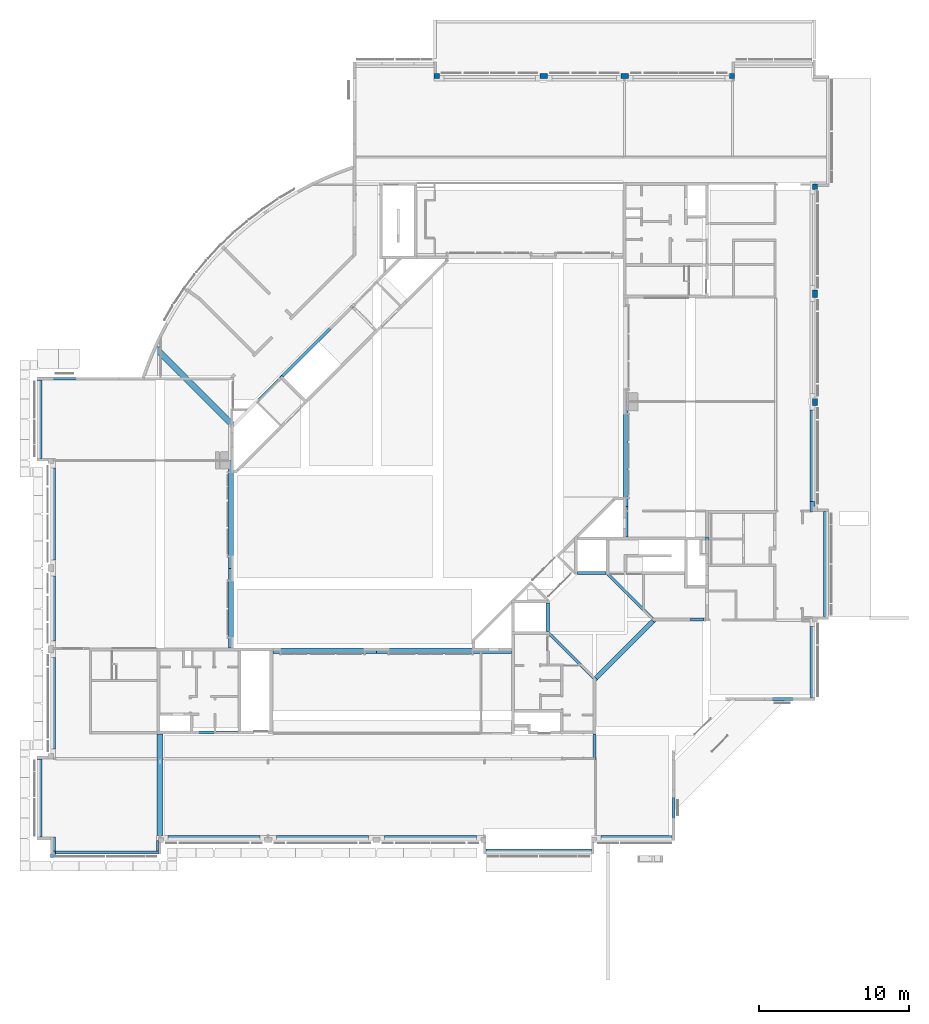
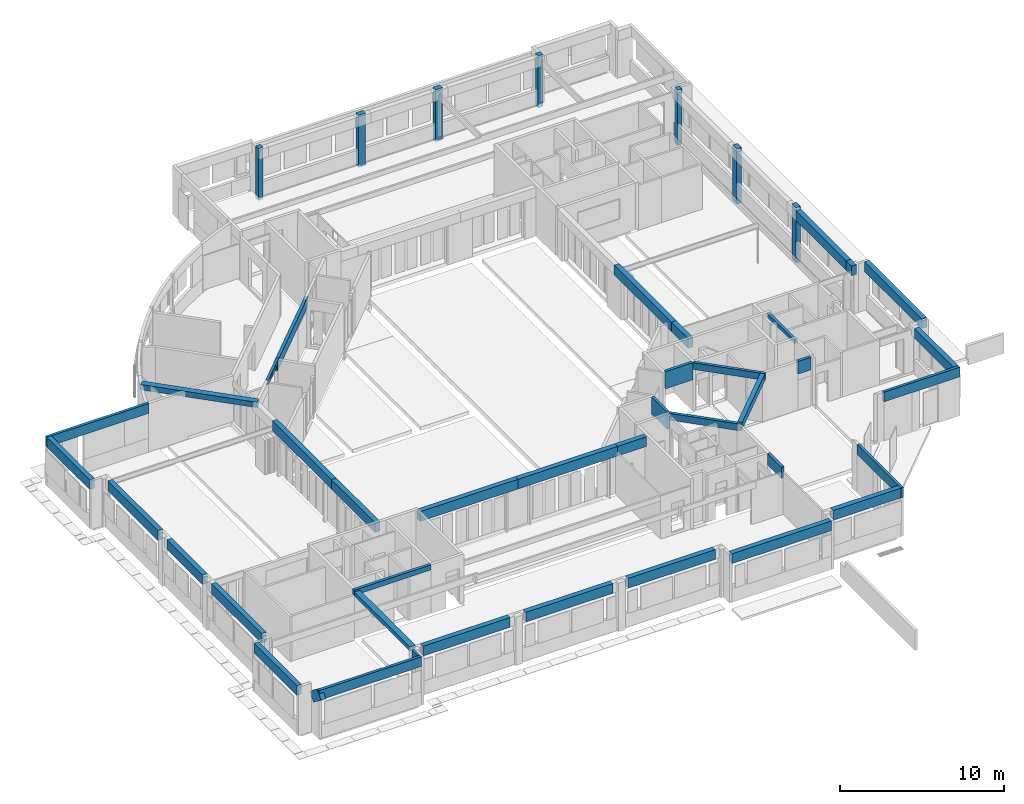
# One storey, part 2 of 30: 40 beams, 7 columns, 1 element without a shape of its own.
"""IFC4X3_ADD2 building model written with IfcOpenShell, lengths in millimetres."""

from ifc_helpers import new_model, si_unit, direction, frame, frame_2d, origin_with_axes, origin_2d_with_axis, place, context, subcontext, project, spatial, polyline, rectangle, outline, extrude, source, transform, mapped, material, type_object, type_shapes, element, aggregate, save


model = new_model("IFC4X3_ADD2")

# Units and contexts
model_context = context("Model", 3, precision=1e-05, world=origin_with_axes(), true_north=direction((0.0, 1.0)))
body_context = subcontext(model_context, "Body", "Model", "MODEL_VIEW")
ifc_project = project(units=[si_unit("LENGTHUNIT", "METRE", prefix="MILLI"), si_unit("AREAUNIT", "SQUARE_METRE"), si_unit("VOLUMEUNIT", "CUBIC_METRE"), si_unit("PLANEANGLEUNIT", "RADIAN"), si_unit("TIMEUNIT", "SECOND"), si_unit("MASSUNIT", "GRAM")], contexts=[model_context])

# Site, building, storey
site_placement = place(None, origin_with_axes())
site = spatial("IfcSite", under=ifc_project, at=site_placement, Name="Site", CompositionType="ELEMENT")
building_placement = place(site_placement, origin_with_axes())
building = spatial("IfcBuilding", under=site, at=building_placement, Name="IFC Building Story")
storey_placement = place(building_placement, origin_with_axes())
storey = spatial("IfcBuildingStorey", under=building, at=storey_placement, Name="000", Elevation=0.0)

# Columns
ifc_material_1 = material(Name="BB_Beton_Bestaand")
column_type_1 = type_object("IfcColumnType", Name="BB_XX_Kolom_ rechthoekig_ center-center_GTL_340 mm x 340 mm17", PredefinedType="NOTDEFINED")
shared_shape_1 = source(origin_with_axes(), body_context, "Body", "SweptSolid", [
    extrude(rectangle(XDim=340.0, YDim=340.0000000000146, at=origin_2d_with_axis()), frame((-25090.0, 50775.0, -460.0), z_axis=(0.0, 0.0, 1.0), x_axis=(1.0, 0.0, 0.0)), (0.0, 0.0, 1.0), 3860.0),
])
type_shapes(column_type_1, [shared_shape_1])
column_1_placement = place(storey_placement, origin_with_axes())
element("IfcColumn", 1, at=column_1_placement, inside=storey, type_object=column_type_1, material=ifc_material_1, Name="BB_XX_Kolom, rechthoekig, center-center_GTL:340 mm x 340 mm", ObjectType="340 mm x 340 mm", PredefinedType="COLUMN", context=body_context, shape_type="MappedRepresentation", body=[
    mapped(shared_shape_1, transform((0.0, 0.0, 0.0))),
])
column_type_2 = type_object("IfcColumnType", Name="BB_XX_Kolom_ rechthoekig_ center-center_GTL_490 mm x 340 mm13", PredefinedType="NOTDEFINED")
shared_shape_2 = source(origin_with_axes(), body_context, "Body", "SweptSolid", [
    extrude(rectangle(XDim=490.0, YDim=340.0, at=origin_2d_with_axis()), frame((0.0, 0.0, -460.0), z_axis=(0.0, 0.0, 1.0), x_axis=(1.0, 0.0, 0.0)), (0.0, 0.0, 1.0), 3860.0),
])
type_shapes(column_type_2, [shared_shape_2])
for number, where, z_axis, x_axis in (
    (2, (-17965.0, 50775.0, 0.0), (0.0, 0.0, 1.0), (1.0, 0.0, 0.0)),
    (3, (-12565.0, 50775.0, 0.0), (0.0, 0.0, 1.0), (1.0, 0.0, 0.0)),
):
    element("IfcColumn", number, at=place(storey_placement, frame(where, z_axis=z_axis, x_axis=x_axis)), inside=storey, type_object=column_type_2, material=ifc_material_1, Name="BB_XX_Kolom, rechthoekig, center-center_GTL:490 mm x 340 mm", ObjectType="490 mm x 340 mm", PredefinedType="COLUMN", context=body_context, shape_type="MappedRepresentation", body=[
        mapped(shared_shape_2, transform((0.0, 0.0, 0.0))),
    ])
column_type_3 = type_object("IfcColumnType", Name="BB_XX_Kolom_ rechthoekig_ center-center_GTL_340 mm x 340 mm19", PredefinedType="NOTDEFINED")
shared_shape_3 = source(origin_with_axes(), body_context, "Body", "SweptSolid", [
    extrude(rectangle(XDim=340.0, YDim=340.000000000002, at=origin_2d_with_axis()), frame((0.0, 0.0, -460.0), z_axis=(0.0, 0.0, 1.0), x_axis=(1.0, 0.0, 0.0)), (0.0, 0.0, 1.0), 3860.0),
])
type_shapes(column_type_3, [shared_shape_3])
column_2_placement = place(storey_placement, frame((-5440.0, 50775.0, 0.0), z_axis=(0.0, 0.0, 1.0), x_axis=(1.0, 0.0, 0.0)))
element("IfcColumn", 4, at=column_2_placement, inside=storey, type_object=column_type_3, material=ifc_material_1, Name="BB_XX_Kolom, rechthoekig, center-center_GTL:340 mm x 340 mm", ObjectType="340 mm x 340 mm", PredefinedType="COLUMN", context=body_context, shape_type="MappedRepresentation", body=[
    mapped(shared_shape_3, transform((0.0, 0.0, 0.0))),
])
column_type_4 = type_object("IfcColumnType", Name="BB_XX_Kolom_ rechthoekig_ center-center_GTL_340 mm x 340 mm21", PredefinedType="NOTDEFINED")
shared_shape_4 = source(origin_with_axes(), body_context, "Body", "SweptSolid", [
    extrude(rectangle(XDim=340.0, YDim=340.0000000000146, at=origin_2d_with_axis()), frame((75.0, 43405.0, -700.0), z_axis=(0.0, 0.0, 1.0), x_axis=(1.0, 0.0, 0.0)), (0.0, 0.0, 1.0), 4100.0),
])
type_shapes(column_type_4, [shared_shape_4])
column_3_placement = place(storey_placement, origin_with_axes())
element("IfcColumn", 5, at=column_3_placement, inside=storey, type_object=column_type_4, material=ifc_material_1, Name="BB_XX_Kolom, rechthoekig, center-center_GTL:340 mm x 340 mm", ObjectType="340 mm x 340 mm", PredefinedType="COLUMN", context=body_context, shape_type="MappedRepresentation", body=[
    mapped(shared_shape_4, transform((0.0, 0.0, 0.0))),
])
column_type_5 = type_object("IfcColumnType", Name="BB_XX_Kolom_ rechthoekig_ center-center_GTL_490 mm x 340 mm15", PredefinedType="NOTDEFINED")
shared_shape_5 = source(origin_with_axes(), body_context, "Body", "SweptSolid", [
    extrude(rectangle(XDim=490.0, YDim=340.0, at=origin_2d_with_axis()), frame((0.0, 0.0, -710.0), z_axis=(0.0, 0.0, 1.0), x_axis=(1.0, 0.0, 0.0)), (0.0, 0.0, 1.0), 4110.0),
])
type_shapes(column_type_5, [shared_shape_5])
for number, where, z_axis, x_axis in (
    (6, (75.0, 36280.0, 0.0), (0.0, 0.0, 1.0), (0.0, 1.0, 0.0)),
    (7, (75.0, 29080.0, 0.0), (0.0, 0.0, 1.0), (0.0, 1.0, 0.0)),
):
    element("IfcColumn", number, at=place(storey_placement, frame(where, z_axis=z_axis, x_axis=x_axis)), inside=storey, type_object=column_type_5, material=ifc_material_1, Name="BB_XX_Kolom, rechthoekig, center-center_GTL:490 mm x 340 mm", ObjectType="490 mm x 340 mm", PredefinedType="COLUMN", context=body_context, shape_type="MappedRepresentation", body=[
        mapped(shared_shape_5, transform((0.0, 0.0, 0.0))),
    ])

# Beams
beam_type_1 = type_object("IfcBeamType", Name="BB_XX_Betonbalk_ rechthoekig_ center-center_SFB_340 x 720 mm", PredefinedType="NOTDEFINED")
shared_shape_6 = source(origin_with_axes(), body_context, "Body", "SweptSolid", [
    extrude(rectangle(XDim=6110.00000000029, YDim=340.0, at=origin_2d_with_axis()), frame((1.450644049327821e-10, 0.0, -360.0), z_axis=(0.0, 0.0, 1.0), x_axis=(1.0, 0.0, 0.0)), (0.0, 0.0, 1.0), 720.0),
])
type_shapes(beam_type_1, [shared_shape_6])
for number, where, z_axis, x_axis in (
    (8, (-32700.0, 75.0, 3040.0), (0.0, 0.0, 1.0), (-1.0, 0.0, 0.0)),
    (9, (-25500.0, 75.0, 3040.0), (0.0, 0.0, 1.0), (-1.0, 0.0, 0.0)),
):
    element("IfcBeam", number, at=place(storey_placement, frame(where, z_axis=z_axis, x_axis=x_axis)), inside=storey, type_object=beam_type_1, material=ifc_material_1, Name="BB_XX_Betonbalk, rechthoekig, center-center_SFB:340 x 720 mm", ObjectType="340 x 720 mm", PredefinedType="BEAM", context=body_context, shape_type="MappedRepresentation", body=[
        mapped(shared_shape_6, transform((0.0, 0.0, 0.0))),
    ])
beam_type_2 = type_object("IfcBeamType", Name="BB_XX_Betonbalk_ rechthoekig_ center-center_SFB_330 x 720 mm", PredefinedType="NOTDEFINED")
shared_shape_7 = source(origin_with_axes(), body_context, "Body", "SweptSolid", [
    extrude(rectangle(XDim=5210.00000000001, YDim=330.0, at=origin_2d_with_axis()), frame((-5.002220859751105e-12, 0.0, -360.0), z_axis=(0.0, 0.0, 1.0), x_axis=(1.0, 0.0, 0.0)), (0.0, 0.0, 1.0), 720.0),
])
type_shapes(beam_type_2, [shared_shape_7])
beam_1_placement = place(storey_placement, frame((-51530.0, 2730.0, 3040.0), z_axis=(0.0, 0.0, 1.0), x_axis=(0.0, 1.0, 0.0)))
element("IfcBeam", 10, at=beam_1_placement, inside=storey, type_object=beam_type_2, material=ifc_material_1, Name="BB_XX_Betonbalk, rechthoekig, center-center_SFB:330 x 720 mm", ObjectType="330 x 720 mm", PredefinedType="BEAM", context=body_context, shape_type="MappedRepresentation", body=[
    mapped(shared_shape_7, transform((0.0, 0.0, 0.0))),
])
beam_type_3 = type_object("IfcBeamType", Name="BB_XX_Betonbalk_ rechthoekig_ center-center_SFB_190 x 720 mm", PredefinedType="NOTDEFINED")
shared_shape_8 = source(origin_with_axes(), body_context, "Body", "SweptSolid", [
    extrude(rectangle(XDim=7199.99999999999, YDim=190.0, at=origin_2d_with_axis()), frame((-5.002220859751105e-12, 0.0, -360.0), z_axis=(0.0, 0.0, 1.0), x_axis=(1.0, 0.0, 0.0)), (0.0, 0.0, 1.0), 720.0),
])
type_shapes(beam_type_3, [shared_shape_8])
beam_2_placement = place(storey_placement, frame((-47195.0, -900.0, 3040.0), z_axis=(0.0, 0.0, 1.0), x_axis=(-1.0, 0.0, 0.0)))
element("IfcBeam", 11, at=beam_2_placement, inside=storey, type_object=beam_type_3, material=ifc_material_1, Name="BB_XX_Betonbalk, rechthoekig, center-center_SFB:190 x 720 mm", ObjectType="190 x 720 mm", PredefinedType="BEAM", context=body_context, shape_type="MappedRepresentation", body=[
    mapped(shared_shape_8, transform((0.0, 0.0, 0.0))),
])
beam_type_4 = type_object("IfcBeamType", Name="BB_XX_Betonbalk_ rechthoekig_ center-center_SFB_150 x 720 mm", PredefinedType="NOTDEFINED")
shared_shape_9 = source(origin_with_axes(), body_context, "Body", "SweptSolid", [
    extrude(rectangle(XDim=709.999999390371, YDim=150.0, at=frame_2d((0.0, 0.0), x_axis=(0.0, 1.0))), frame((-43670.0, -449.9999996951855, 2680.0), z_axis=(0.0, 0.0, 1.0), x_axis=(1.0, 0.0, 0.0)), (0.0, 0.0, 1.0), 720.0),
])
type_shapes(beam_type_4, [shared_shape_9])
beam_3_placement = place(storey_placement, origin_with_axes())
element("IfcBeam", 12, at=beam_3_placement, inside=storey, type_object=beam_type_4, material=ifc_material_1, Name="BB_XX_Betonbalk, rechthoekig, center-center_SFB:150 x 720 mm", ObjectType="150 x 720 mm", PredefinedType="BEAM", context=body_context, shape_type="MappedRepresentation", body=[
    mapped(shared_shape_9, transform((0.0, 0.0, 0.0))),
])
beam_type_5 = type_object("IfcBeamType", Name="BB_XX_Betonbalk_ rechthoekig_ center-center_SFB_330 x 720 mm1", PredefinedType="NOTDEFINED")
shared_shape_10 = source(origin_with_axes(), body_context, "Body", "SweptSolid", [
    extrude(rectangle(XDim=5209.86980580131, YDim=330.0, at=origin_2d_with_axis()), frame((-5.002220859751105e-12, 0.0, -360.0), z_axis=(0.0, 0.0, 1.0), x_axis=(1.0, 0.0, 0.0)), (0.0, 0.0, 1.0), 720.0),
])
type_shapes(beam_type_5, [shared_shape_10])
beam_4_placement = place(storey_placement, frame((-51530.0, 27929.9349029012, 3040.0), z_axis=(0.0, 0.0, 1.0), x_axis=(0.0, 1.0, 0.0)))
element("IfcBeam", 13, at=beam_4_placement, inside=storey, type_object=beam_type_5, material=ifc_material_1, Name="BB_XX_Betonbalk, rechthoekig, center-center_SFB:330 x 720 mm", ObjectType="330 x 720 mm", PredefinedType="BEAM", context=body_context, shape_type="MappedRepresentation", body=[
    mapped(shared_shape_10, transform((0.0, 0.0, 0.0))),
])
beam_type_6 = type_object("IfcBeamType", Name="BB_XX_Betonbalk_ rechthoekig_ center-center_SFB_190 x 720 mm1", PredefinedType="NOTDEFINED")
shared_shape_11 = source(origin_with_axes(), body_context, "Body", "SweptSolid", [
    extrude(rectangle(XDim=7184.549296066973, YDim=190.0, at=origin_2d_with_axis()), frame((-48102.72535196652, 30629.99999999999, 2680.0), z_axis=(0.0, 0.0, 1.0), x_axis=(1.0, 0.0, 0.0)), (0.0, 0.0, 1.0), 720.0),
])
type_shapes(beam_type_6, [shared_shape_11])
beam_5_placement = place(storey_placement, origin_with_axes())
element("IfcBeam", 14, at=beam_5_placement, inside=storey, type_object=beam_type_6, material=ifc_material_1, Name="BB_XX_Betonbalk, rechthoekig, center-center_SFB:190 x 720 mm", ObjectType="190 x 720 mm", PredefinedType="BEAM", context=body_context, shape_type="MappedRepresentation", body=[
    mapped(shared_shape_11, transform((0.0, 0.0, 0.0))),
])
beam_type_7 = type_object("IfcBeamType", Name="BB_XX_Betonbalk_ rechthoekig_ center-center_SFB_340 x 720 mm9", PredefinedType="NOTDEFINED")
shared_shape_12 = source(origin_with_axes(), body_context, "Body", "SweptSolid", [
    extrude(rectangle(XDim=6110.00000000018, YDim=340.0, at=origin_2d_with_axis()), frame((-5.002220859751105e-12, 0.0, -360.0), z_axis=(0.0, 0.0, 1.0), x_axis=(1.0, 0.0, 0.0)), (0.0, 0.0, 1.0), 720.0),
])
type_shapes(beam_type_7, [shared_shape_12])
beam_6_placement = place(storey_placement, frame((-75.0, 25500.0, 3040.0), z_axis=(0.0, 0.0, 1.0), x_axis=(0.0, -1.0, 0.0)))
element("IfcBeam", 15, at=beam_6_placement, inside=storey, type_object=beam_type_7, material=ifc_material_1, Name="BB_XX_Betonbalk, rechthoekig, center-center_SFB:340 x 720 mm", ObjectType="340 x 720 mm", PredefinedType="BEAM", context=body_context, shape_type="MappedRepresentation", body=[
    mapped(shared_shape_12, transform((0.0, 0.0, 0.0))),
])
beam_type_8 = type_object("IfcBeamType", Name="BB_XX_Betonbalk_ rechthoekig_ center-center_SFB_340 x 720 mm17", PredefinedType="NOTDEFINED")
shared_shape_13 = source(origin_with_axes(), body_context, "Body", "SweptSolid", [
    extrude(rectangle(XDim=660.0000000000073, YDim=340.0, at=frame_2d((0.0, 0.0), x_axis=(0.0, 1.0))), frame((-75.0, 22115.0, 2680.0), z_axis=(0.0, 0.0, 1.0), x_axis=(1.0, 0.0, 0.0)), (0.0, 0.0, 1.0), 720.0),
])
type_shapes(beam_type_8, [shared_shape_13])
beam_7_placement = place(storey_placement, origin_with_axes())
element("IfcBeam", 16, at=beam_7_placement, inside=storey, type_object=beam_type_8, material=ifc_material_1, Name="BB_XX_Betonbalk, rechthoekig, center-center_SFB:340 x 720 mm", ObjectType="340 x 720 mm", PredefinedType="BEAM", context=body_context, shape_type="MappedRepresentation", body=[
    mapped(shared_shape_13, transform((0.0, 0.0, 0.0))),
])
beam_type_9 = type_object("IfcBeamType", Name="BB_XX_Betonbalk_ rechthoekig_ center-center_SFB_340 x 720 mm23", PredefinedType="NOTDEFINED")
shared_shape_14 = source(origin_with_axes(), body_context, "Body", "SweptSolid", [
    extrude(rectangle(XDim=7010.00000000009, YDim=340.0, at=origin_2d_with_axis()), frame((-5.002220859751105e-12, 0.0, -360.0), z_axis=(0.0, 0.0, 1.0), x_axis=(1.0, 0.0, 0.0)), (0.0, 0.0, 1.0), 720.0),
])
type_shapes(beam_type_9, [shared_shape_14])
for number, where, z_axis, x_axis in (
    (17, (825.0, 18300.0, 3040.0), (0.0, 0.0, 1.0), (0.0, -1.0, 0.0)),
    (18, (-18300.0, -825.0, 3040.0), (0.0, 0.0, 1.0), (1.0, 0.0, 0.0)),
):
    element("IfcBeam", number, at=place(storey_placement, frame(where, z_axis=z_axis, x_axis=x_axis)), inside=storey, type_object=beam_type_9, material=ifc_material_1, Name="BB_XX_Betonbalk, rechthoekig, center-center_SFB:340 x 720 mm", ObjectType="340 x 720 mm", PredefinedType="BEAM", context=body_context, shape_type="MappedRepresentation", body=[
        mapped(shared_shape_14, transform((0.0, 0.0, 0.0))),
    ])
beam_type_10 = type_object("IfcBeamType", Name="BB_XX_Betonbalk_ rechthoekig_ center-center_SFB_340 x 720 mm25", PredefinedType="NOTDEFINED")
shared_shape_15 = source(origin_with_axes(), body_context, "Body", "SweptSolid", [
    extrude(rectangle(XDim=4740.0, YDim=340.0, at=origin_2d_with_axis()), frame((-5.002220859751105e-12, 0.0, -360.0), z_axis=(0.0, 0.0, 1.0), x_axis=(1.0, 0.0, 0.0)), (0.0, 0.0, 1.0), 720.0),
])
type_shapes(beam_type_10, [shared_shape_15])
for number, where, z_axis, x_axis in (
    (19, (-75.0, 11785.0, 3040.0), (0.0, 0.0, 1.0), (0.0, -1.0, 0.0)),
    (20, (-11785.0, 75.0, 3040.0), (0.0, 0.0, 1.0), (1.0, 0.0, 0.0)),
):
    element("IfcBeam", number, at=place(storey_placement, frame(where, z_axis=z_axis, x_axis=x_axis)), inside=storey, type_object=beam_type_10, material=ifc_material_1, Name="BB_XX_Betonbalk, rechthoekig, center-center_SFB:340 x 720 mm", ObjectType="340 x 720 mm", PredefinedType="BEAM", context=body_context, shape_type="MappedRepresentation", body=[
        mapped(shared_shape_15, transform((0.0, 0.0, 0.0))),
    ])
beam_type_11 = type_object("IfcBeamType", Name="BB_XX_Betonbalk_ rechthoekig_ center-center_SFB_190 x 720 mm5", PredefinedType="NOTDEFINED")
shared_shape_16 = source(origin_with_axes(), body_context, "Body", "SweptSolid", [
    extrude(rectangle(XDim=5335.00000000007, YDim=190.0, at=origin_2d_with_axis()), frame((-5.002220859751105e-12, 0.0, -360.0), z_axis=(0.0, 0.0, 1.0), x_axis=(1.0, 0.0, 0.0)), (0.0, 0.0, 1.0), 720.0),
])
type_shapes(beam_type_11, [shared_shape_16])
for number, where, z_axis, x_axis in (
    (21, (-9320.0, 2572.50000000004, 3040.0), (0.0, 0.0, 1.0), (0.0, 1.0, 0.0)),
    (22, (-2572.50000000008, 9320.0, 3040.0), (0.0, 0.0, 1.0), (1.0, 0.0, 0.0)),
):
    element("IfcBeam", number, at=place(storey_placement, frame(where, z_axis=z_axis, x_axis=x_axis)), inside=storey, type_object=beam_type_11, material=ifc_material_1, Name="BB_XX_Betonbalk, rechthoekig, center-center_SFB:190 x 720 mm", ObjectType="190 x 720 mm", PredefinedType="BEAM", context=body_context, shape_type="MappedRepresentation", body=[
        mapped(shared_shape_16, transform((0.0, 0.0, 0.0))),
    ])
beam_type_12 = type_object("IfcBeamType", Name="BB_XX_Betonbalk_ rechthoekig_ center-center_SFB_340 x 720 mm33", PredefinedType="NOTDEFINED")
shared_shape_17 = source(origin_with_axes(), body_context, "Body", "SweptSolid", [
    extrude(rectangle(XDim=5299.99593411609, YDim=340.0, at=origin_2d_with_axis()), frame((-5.002220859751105e-12, 0.0, -360.0), z_axis=(0.0, 0.0, 1.0), x_axis=(1.0, 0.0, 0.0)), (0.0, 0.0, 1.0), 720.0),
])
type_shapes(beam_type_12, [shared_shape_17])
beam_8_placement = place(storey_placement, frame((-38775.0, 15350.0020329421, 3040.0), z_axis=(0.0, 0.0, 1.0), x_axis=(0.0, 1.0, 0.0)))
element("IfcBeam", 23, at=beam_8_placement, inside=storey, type_object=beam_type_12, material=ifc_material_1, Name="BB_XX_Betonbalk, rechthoekig, center-center_SFB:340 x 720 mm", ObjectType="340 x 720 mm", PredefinedType="BEAM", context=body_context, shape_type="MappedRepresentation", body=[
    mapped(shared_shape_17, transform((0.0, 0.0, 0.0))),
])
beam_type_13 = type_object("IfcBeamType", Name="BB_XX_Betonbalk_ rechthoekig_ center-center_SFB_340 x 720 mm35", PredefinedType="NOTDEFINED")
shared_shape_18 = source(origin_with_axes(), body_context, "Body", "SweptSolid", [
    extrude(rectangle(XDim=7200.0, YDim=340.0, at=origin_2d_with_axis()), frame((-5.002220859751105e-12, 0.0, -360.0), z_axis=(0.0, 0.0, 1.0), x_axis=(1.0, 0.0, 0.0)), (0.0, 0.0, 1.0), 720.0),
])
type_shapes(beam_type_13, [shared_shape_18])
beam_9_placement = place(storey_placement, frame((-38775.0, 21600.0, 3040.0), z_axis=(0.0, 0.0, 1.0), x_axis=(0.0, 1.0, 0.0)))
element("IfcBeam", 24, at=beam_9_placement, inside=storey, type_object=beam_type_13, material=ifc_material_1, Name="BB_XX_Betonbalk, rechthoekig, center-center_SFB:340 x 720 mm", ObjectType="340 x 720 mm", PredefinedType="BEAM", context=body_context, shape_type="MappedRepresentation", body=[
    mapped(shared_shape_18, transform((0.0, 0.0, 0.0))),
])
beam_type_14 = type_object("IfcBeamType", Name="BB_XX_Betonbalk_ rechthoekig_ center-center_SFB_340 x 720 mm43", PredefinedType="NOTDEFINED")
shared_shape_19 = source(origin_with_axes(), body_context, "Body", "SweptSolid", [
    extrude(rectangle(XDim=6110.00000000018, YDim=339.9999999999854, at=frame_2d((0.0, 0.0), x_axis=(0.0, 1.0))), frame((-50625.0, 9029.999999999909, 2680.0), z_axis=(0.0, 0.0, 1.0), x_axis=(1.0, 0.0, 0.0)), (0.0, 0.0, 1.0), 720.0),
])
type_shapes(beam_type_14, [shared_shape_19])
beam_10_placement = place(storey_placement, origin_with_axes())
element("IfcBeam", 25, at=beam_10_placement, inside=storey, type_object=beam_type_14, material=ifc_material_1, Name="BB_XX_Betonbalk, rechthoekig, center-center_SFB:340 x 720 mm", ObjectType="340 x 720 mm", PredefinedType="BEAM", context=body_context, shape_type="MappedRepresentation", body=[
    mapped(shared_shape_19, transform((0.0, 0.0, 0.0))),
])
beam_type_15 = type_object("IfcBeamType", Name="BB_XX_Betonbalk_ rechthoekig_ center-center_SFB_340 x 720 mm47", PredefinedType="NOTDEFINED")
shared_shape_20 = source(origin_with_axes(), body_context, "Body", "SweptSolid", [
    extrude(rectangle(XDim=4309.99999999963, YDim=340.0, at=origin_2d_with_axis()), frame((-1.450644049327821e-10, 0.0, -360.0), z_axis=(0.0, 0.0, 1.0), x_axis=(1.0, 0.0, 0.0)), (0.0, 0.0, 1.0), 720.0),
])
type_shapes(beam_type_15, [shared_shape_20])
beam_11_placement = place(storey_placement, frame((-50625.0, 15330.0, 3040.0), z_axis=(0.0, 0.0, 1.0), x_axis=(0.0, 1.0, 0.0)))
element("IfcBeam", 26, at=beam_11_placement, inside=storey, type_object=beam_type_15, material=ifc_material_1, Name="BB_XX_Betonbalk, rechthoekig, center-center_SFB:340 x 720 mm", ObjectType="340 x 720 mm", PredefinedType="BEAM", context=body_context, shape_type="MappedRepresentation", body=[
    mapped(shared_shape_20, transform((0.0, 0.0, 0.0))),
])
beam_type_16 = type_object("IfcBeamType", Name="BB_XX_Betonbalk_ rechthoekig_ center-center_SFB_340 x 720 mm49", PredefinedType="NOTDEFINED")
shared_shape_21 = source(origin_with_axes(), body_context, "Body", "SweptSolid", [
    extrude(rectangle(XDim=6110.000000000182, YDim=340.0000000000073, at=frame_2d((0.0, 0.0), x_axis=(0.0, 1.0))), frame((-50625.0, 21630.00000000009, 2680.0), z_axis=(0.0, 0.0, 1.0), x_axis=(1.0, 0.0, 0.0)), (0.0, 0.0, 1.0), 720.0),
])
type_shapes(beam_type_16, [shared_shape_21])
beam_12_placement = place(storey_placement, origin_with_axes())
element("IfcBeam", 27, at=beam_12_placement, inside=storey, type_object=beam_type_16, material=ifc_material_1, Name="BB_XX_Betonbalk, rechthoekig, center-center_SFB:340 x 720 mm", ObjectType="340 x 720 mm", PredefinedType="BEAM", context=body_context, shape_type="MappedRepresentation", body=[
    mapped(shared_shape_21, transform((0.0, 0.0, 0.0))),
])
beam_type_17 = type_object("IfcBeamType", Name="BB_XX_Betonbalk_ rechthoekig_ center-center_SFB_340 x 720 mm55", PredefinedType="NOTDEFINED")
shared_shape_22 = source(origin_with_axes(), body_context, "Body", "SweptSolid", [
    extrude(rectangle(XDim=6900.00000000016, YDim=340.0, at=origin_2d_with_axis()), frame((-5.002220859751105e-12, 0.0, -360.0), z_axis=(0.0, 0.0, 1.0), x_axis=(1.0, 0.0, 0.0)), (0.0, 0.0, 1.0), 720.0),
])
type_shapes(beam_type_17, [shared_shape_22])
beam_13_placement = place(storey_placement, frame((-32550.0, 12525.004065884, 3040.0), z_axis=(0.0, 0.0, 1.0), x_axis=(1.0, 0.0, 0.0)))
element("IfcBeam", 28, at=beam_13_placement, inside=storey, type_object=beam_type_17, material=ifc_material_1, Name="BB_XX_Betonbalk, rechthoekig, center-center_SFB:340 x 720 mm", ObjectType="340 x 720 mm", PredefinedType="BEAM", context=body_context, shape_type="MappedRepresentation", body=[
    mapped(shared_shape_22, transform((0.0, 0.0, 0.0))),
])
beam_type_18 = type_object("IfcBeamType", Name="BB_XX_Betonbalk_ rechthoekig_ center-center_SFB_340 x 720 mm57", PredefinedType="NOTDEFINED")
shared_shape_23 = source(origin_with_axes(), body_context, "Body", "SweptSolid", [
    extrude(rectangle(XDim=6979.999999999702, YDim=340.0, at=origin_2d_with_axis()), frame((-25610.00000000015, 12524.99999999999, 2680.0), z_axis=(0.0, 0.0, 1.0), x_axis=(1.0, 0.0, 0.0)), (0.0, 0.0, 1.0), 720.0),
])
type_shapes(beam_type_18, [shared_shape_23])
beam_14_placement = place(storey_placement, origin_with_axes())
element("IfcBeam", 29, at=beam_14_placement, inside=storey, type_object=beam_type_18, material=ifc_material_1, Name="BB_XX_Betonbalk, rechthoekig, center-center_SFB:340 x 720 mm", ObjectType="340 x 720 mm", PredefinedType="BEAM", context=body_context, shape_type="MappedRepresentation", body=[
    mapped(shared_shape_23, transform((0.0, 0.0, 0.0))),
])
beam_type_19 = type_object("IfcBeamType", Name="BB_XX_Betonbalk_ rechthoekig_ center-center_SFB_340 x 720 mm59", PredefinedType="NOTDEFINED")
shared_shape_24 = source(origin_with_axes(), body_context, "Body", "SweptSolid", [
    extrude(rectangle(XDim=2020.000000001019, YDim=340.0, at=origin_2d_with_axis()), frame((-21109.99999999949, 12525.0, 2680.0), z_axis=(0.0, 0.0, 1.0), x_axis=(1.0, 0.0, 0.0)), (0.0, 0.0, 1.0), 719.9999999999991),
])
type_shapes(beam_type_19, [shared_shape_24])
beam_15_placement = place(storey_placement, origin_with_axes())
element("IfcBeam", 30, at=beam_15_placement, inside=storey, type_object=beam_type_19, material=ifc_material_1, Name="BB_XX_Betonbalk, rechthoekig, center-center_SFB:340 x 720 mm", ObjectType="340 x 720 mm", PredefinedType="BEAM", context=body_context, shape_type="MappedRepresentation", body=[
    mapped(shared_shape_24, transform((0.0, 0.0, 0.0))),
])
beam_type_20 = type_object("IfcBeamType", Name="BB_XX_Betonbalk_ rechthoekig_ center-center_SFB_340 x 720 mm61", PredefinedType="NOTDEFINED")
shared_shape_25 = source(origin_with_axes(), body_context, "Body", "SweptSolid", [
    extrude(rectangle(XDim=2020.000000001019, YDim=340.0, at=frame_2d((0.0, 0.0), x_axis=(0.0, 1.0))), frame((-12525.0, 21110.00000000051, 2680.0), z_axis=(0.0, 0.0, 1.0), x_axis=(1.0, 0.0, 0.0)), (0.0, 0.0, 1.0), 719.9999999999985),
])
type_shapes(beam_type_20, [shared_shape_25])
beam_16_placement = place(storey_placement, origin_with_axes())
element("IfcBeam", 31, at=beam_16_placement, inside=storey, type_object=beam_type_20, material=ifc_material_1, Name="BB_XX_Betonbalk, rechthoekig, center-center_SFB:340 x 720 mm", ObjectType="340 x 720 mm", PredefinedType="BEAM", context=body_context, shape_type="MappedRepresentation", body=[
    mapped(shared_shape_25, transform((0.0, 0.0, 0.0))),
])
beam_type_21 = type_object("IfcBeamType", Name="BB_XX_Betonbalk_ rechthoekig_ center-center_SFB_340 x 720 mm63", PredefinedType="NOTDEFINED")
shared_shape_26 = source(origin_with_axes(), body_context, "Body", "SweptSolid", [
    extrude(rectangle(XDim=6979.999999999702, YDim=340.0, at=frame_2d((0.0, 0.0), x_axis=(0.0, 1.0))), frame((-12525.0, 25609.99999999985, 2680.0), z_axis=(0.0, 0.0, 1.0), x_axis=(1.0, 0.0, 0.0)), (0.0, 0.0, 1.0), 720.0),
])
type_shapes(beam_type_21, [shared_shape_26])
beam_17_placement = place(storey_placement, origin_with_axes())
element("IfcBeam", 32, at=beam_17_placement, inside=storey, type_object=beam_type_21, material=ifc_material_1, Name="BB_XX_Betonbalk, rechthoekig, center-center_SFB:340 x 720 mm", ObjectType="340 x 720 mm", PredefinedType="BEAM", context=body_context, shape_type="MappedRepresentation", body=[
    mapped(shared_shape_26, transform((0.0, 0.0, 0.0))),
])
beam_type_22 = type_object("IfcBeamType", Name="BB_XX_Betonbalk_ rechthoekig_ center-center_SFB_200 x 1270 mm3", PredefinedType="NOTDEFINED")
shared_shape_27 = source(origin_with_axes(), body_context, "Body", "SweptSolid", [
    extrude(rectangle(XDim=1900.0, YDim=200.0, at=origin_2d_with_axis()), frame((0.0, 0.0, -635.0), z_axis=(0.0, 0.0, 1.0), x_axis=(1.0, 0.0, 0.0)), (0.0, 0.0, 1.0), 1270.0),
])
type_shapes(beam_type_22, [shared_shape_27])
beam_18_placement = place(storey_placement, frame((-14765.0, 17700.0, 2885.0), z_axis=(0.0, 0.0, 1.0), x_axis=(-1.0, 0.0, 0.0)))
element("IfcBeam", 33, at=beam_18_placement, inside=storey, type_object=beam_type_22, material=ifc_material_1, Name="BB_XX_Betonbalk, rechthoekig, center-center_SFB:200 x 1270 mm", ObjectType="200 x 1270 mm", PredefinedType="BEAM", context=body_context, shape_type="MappedRepresentation", body=[
    mapped(shared_shape_27, transform((0.0, 0.0, 0.0))),
])
beam_type_23 = type_object("IfcBeamType", Name="BB_XX_Betonbalk_ rechthoekig_ center-center_SFB_200 x 1270 mm5", PredefinedType="NOTDEFINED")
shared_shape_28 = source(origin_with_axes(), body_context, "Body", "SweptSolid", [
    extrude(rectangle(XDim=1900.00000000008, YDim=200.0, at=origin_2d_with_axis()), frame((0.0, 0.0, -635.0), z_axis=(0.0, 0.0, 1.0), x_axis=(1.0, 0.0, 0.0)), (0.0, 0.0, 1.0), 1270.0),
])
type_shapes(beam_type_23, [shared_shape_28])
beam_19_placement = place(storey_placement, frame((-17700.0, 14765.0, 2885.0), z_axis=(0.0, 0.0, 1.0), x_axis=(0.0, -1.0, 0.0)))
element("IfcBeam", 34, at=beam_19_placement, inside=storey, type_object=beam_type_23, material=ifc_material_1, Name="BB_XX_Betonbalk, rechthoekig, center-center_SFB:200 x 1270 mm", ObjectType="200 x 1270 mm", PredefinedType="BEAM", context=body_context, shape_type="MappedRepresentation", body=[
    mapped(shared_shape_28, transform((0.0, 0.0, 0.0))),
])
beam_type_24 = type_object("IfcBeamType", Name="BB_XX_Betonbalk_ rechthoekig_ center-center_SFB_300 x 500 mm9", PredefinedType="NOTDEFINED")
shared_shape_29 = source(origin_with_axes(), body_context, "Body", "SweptSolid", [
    extrude(rectangle(XDim=5630.0, YDim=300.0, at=frame_2d((0.0, 0.0), x_axis=(0.7071067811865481, 0.7071067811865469))), frame((-12599.75236304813, 12600.72603306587, 3020.0), z_axis=(0.0, 0.0, 1.0), x_axis=(1.0, 0.0, 0.0)), (0.0, 0.0, 1.0), 500.0),
])
type_shapes(beam_type_24, [shared_shape_29])
beam_20_placement = place(storey_placement, origin_with_axes())
element("IfcBeam", 35, at=beam_20_placement, inside=storey, type_object=beam_type_24, material=ifc_material_1, Name="BB_XX_Betonbalk, rechthoekig, center-center_SFB:300 x 500 mm", ObjectType="300 x 500 mm", PredefinedType="BEAM", context=body_context, shape_type="MappedRepresentation", body=[
    mapped(shared_shape_29, transform((0.0, 0.0, 0.0))),
])
beam_type_25 = type_object("IfcBeamType", Name="BB_XX_Betonbalk_ rechthoekig_ center-center_SFB_200 x 500 mm17", PredefinedType="NOTDEFINED")
shared_shape_30 = source(origin_with_axes(), body_context, "Body", "SweptSolid", [
    extrude(rectangle(XDim=4546.118365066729, YDim=200.0, at=frame_2d((0.0, 0.0), x_axis=(-0.7071067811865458, 0.7071067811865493))), frame((-16064.67942100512, 12138.25806476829, 3020.0), z_axis=(0.0, 0.0, 1.0), x_axis=(1.0, 0.0, 0.0)), (0.0, 0.0, 1.0), 500.0),
])
type_shapes(beam_type_25, [shared_shape_30])
beam_21_placement = place(storey_placement, origin_with_axes())
element("IfcBeam", 36, at=beam_21_placement, inside=storey, type_object=beam_type_25, material=ifc_material_1, Name="BB_XX_Betonbalk, rechthoekig, center-center_SFB:200 x 500 mm", ObjectType="200 x 500 mm", PredefinedType="BEAM", context=body_context, shape_type="MappedRepresentation", body=[
    mapped(shared_shape_30, transform((0.0, 0.0, 0.0))),
])
beam_type_26 = type_object("IfcBeamType", Name="BB_XX_Betonbalk_ rechthoekig_ center-center_SFB_200 x 500 mm19", PredefinedType="NOTDEFINED")
shared_shape_31 = source(origin_with_axes(), body_context, "Body", "SweptSolid", [
    extrude(rectangle(XDim=4544.33036793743, YDim=200.0, at=frame_2d((0.0, 0.0), x_axis=(-0.7071067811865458, 0.7071067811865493))), frame((-12137.62591232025, 16064.04726855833, 3020.0), z_axis=(0.0, 0.0, 1.0), x_axis=(1.0, 0.0, 0.0)), (0.0, 0.0, 1.0), 500.0),
])
type_shapes(beam_type_26, [shared_shape_31])
beam_22_placement = place(storey_placement, origin_with_axes())
element("IfcBeam", 37, at=beam_22_placement, inside=storey, type_object=beam_type_26, material=ifc_material_1, Name="BB_XX_Betonbalk, rechthoekig, center-center_SFB:200 x 500 mm", ObjectType="200 x 500 mm", PredefinedType="BEAM", context=body_context, shape_type="MappedRepresentation", body=[
    mapped(shared_shape_31, transform((0.0, 0.0, 0.0))),
])
beam_type_27 = type_object("IfcBeamType", Name="BB_XX_Betonbalk_ rechthoekig_ center-center_SFB_340 x 720 mm69", PredefinedType="NOTDEFINED")
shared_shape_32 = source(origin_with_axes(), body_context, "Body", "SweptSolid", [
    extrude(rectangle(XDim=1176.13774703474, YDim=340.0, at=origin_2d_with_axis()), frame((-5.002220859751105e-12, 0.0, -360.0), z_axis=(0.0, 0.0, 1.0), x_axis=(1.0, 0.0, 0.0)), (0.0, 0.0, 1.0), 720.0),
])
type_shapes(beam_type_27, [shared_shape_32])
beam_23_placement = place(storey_placement, frame((-50625.0, -560.382349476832, 2755.33946525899), z_axis=(0.0, 0.6121731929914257, 0.7907237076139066), x_axis=(0.0, 0.7907237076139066, -0.6121731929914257)))
element("IfcBeam", 38, at=beam_23_placement, inside=storey, type_object=beam_type_27, material=ifc_material_1, Name="BB_XX_Betonbalk, rechthoekig, center-center_SFB:340 x 720 mm", ObjectType="340 x 720 mm", PredefinedType="BEAM", context=body_context, shape_type="MappedRepresentation", body=[
    mapped(shared_shape_32, transform((0.0, 0.0, 0.0))),
])
beam_type_28 = type_object("IfcBeamType", Name="BB_XX_Betonbalk_ rechthoekig_ center-center_SFB_200 x 820 mm", PredefinedType="NOTDEFINED")
shared_shape_33 = source(origin_with_axes(), body_context, "Body", "SweptSolid", [
    extrude(rectangle(XDim=1699.99999999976, YDim=200.0, at=origin_2d_with_axis()), frame((-1.200533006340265e-10, 0.0, -410.0), z_axis=(0.0, 0.0, 1.0), x_axis=(1.0, 0.0, 0.0)), (0.0, 0.0, 1.0), 820.0),
])
type_shapes(beam_type_28, [shared_shape_33])
beam_24_placement = place(storey_placement, frame((-14600.0, 6150.0, 3110.0), z_axis=(0.0, 0.0, 1.0), x_axis=(0.0, 1.0, 0.0)))
element("IfcBeam", 39, at=beam_24_placement, inside=storey, type_object=beam_type_28, material=ifc_material_1, Name="BB_XX_Betonbalk, rechthoekig, center-center_SFB:200 x 820 mm", ObjectType="200 x 820 mm", PredefinedType="BEAM", context=body_context, shape_type="MappedRepresentation", body=[
    mapped(shared_shape_33, transform((0.0, 0.0, 0.0))),
])
beam_type_29 = type_object("IfcBeamType", Name="BB_XX_Betonbalk_ rechthoekig_ center-center_SFB_200 x 260 mm", PredefinedType="NOTDEFINED")
shared_shape_34 = source(origin_with_axes(), body_context, "Body", "SweptSolid", [
    extrude(rectangle(XDim=3399.999999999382, YDim=200.0, at=frame_2d((0.0, 0.0), x_axis=(0.0, 1.0))), frame((-7090.0, 18399.99999999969, 3140.0), z_axis=(0.0, 0.0, 1.0), x_axis=(1.0, 0.0, 0.0)), (0.0, 0.0, 1.0), 260.0),
])
type_shapes(beam_type_29, [shared_shape_34])
beam_25_placement = place(storey_placement, origin_with_axes())
element("IfcBeam", 40, at=beam_25_placement, inside=storey, type_object=beam_type_29, material=ifc_material_1, Name="BB_XX_Betonbalk, rechthoekig, center-center_SFB:200 x 260 mm", ObjectType="200 x 260 mm", PredefinedType="BEAM", context=body_context, shape_type="MappedRepresentation", body=[
    mapped(shared_shape_34, transform((0.0, 0.0, 0.0))),
])
beam_type_30 = type_object("IfcBeamType", Name="BB_XX_Betonbalk_ rechthoekig_ center-center_SFB_400 x 400 mm", PredefinedType="NOTDEFINED")
shared_shape_35 = source(origin_with_axes(), body_context, "Body", "SweptSolid", [
    extrude(rectangle(XDim=7345.0, YDim=400.0000000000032, at=frame_2d((0.0, 0.0), x_axis=(-0.7071067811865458, 0.7071067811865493))), frame((-41222.10957217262, 30082.08437404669, 3000.0), z_axis=(0.0, 0.0, 1.0), x_axis=(1.0, 0.0, 0.0)), (0.0, 0.0, 1.0), 400.0),
])
type_shapes(beam_type_30, [shared_shape_35])
beam_26_placement = place(storey_placement, origin_with_axes())
element("IfcBeam", 41, at=beam_26_placement, inside=storey, type_object=beam_type_30, material=ifc_material_1, Name="BB_XX_Betonbalk, rechthoekig, center-center_SFB:400 x 400 mm", ObjectType="400 x 400 mm", PredefinedType="BEAM", context=body_context, shape_type="MappedRepresentation", body=[
    mapped(shared_shape_35, transform((0.0, 0.0, 0.0))),
])
beam_type_31 = type_object("IfcBeamType", Name="BB_XX_Betonbalk_ rechthoekig_ center-center_SFB_400 x 300 mm", PredefinedType="NOTDEFINED")
shared_shape_36 = source(origin_with_axes(), body_context, "Body", "SweptSolid", [
    extrude(rectangle(XDim=6755.00000000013, YDim=400.0, at=origin_2d_with_axis()), frame((5.002220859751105e-12, 0.0, -150.0), z_axis=(0.0, 0.0, 1.0), x_axis=(1.0, 0.0, 0.0)), (0.0, 0.0, 1.0), 300.0),
])
type_shapes(beam_type_31, [shared_shape_36])
beam_27_placement = place(storey_placement, frame((-43500.0, 3622.50000000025, 3250.0), z_axis=(0.0, 0.0, 1.0), x_axis=(0.0, 1.0, 0.0)))
element("IfcBeam", 42, at=beam_27_placement, inside=storey, type_object=beam_type_31, material=ifc_material_1, Name="BB_XX_Betonbalk, rechthoekig, center-center_SFB:400 x 300 mm", ObjectType="300 mm x 400 mm", PredefinedType="BEAM", context=body_context, shape_type="MappedRepresentation", body=[
    mapped(shared_shape_36, transform((0.0, 0.0, 0.0))),
])
beam_type_32 = type_object("IfcBeamType", Name="BB_XX_Betonbalk_ rechthoekig_ center-center_SFB_200 x 380 mm1", PredefinedType="NOTDEFINED")
shared_shape_37 = source(origin_with_axes(), body_context, "Body", "SweptSolid", [
    extrude(rectangle(XDim=5399.999999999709, YDim=200.0, at=origin_2d_with_axis()), frame((-40999.99999999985, 7100.000000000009, 3140.0), z_axis=(0.0, 0.0, 1.0), x_axis=(1.0, 0.0, 0.0)), (0.0, 0.0, 1.0), 380.000000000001),
])
type_shapes(beam_type_32, [shared_shape_37])
beam_28_placement = place(storey_placement, origin_with_axes())
element("IfcBeam", 43, at=beam_28_placement, inside=storey, type_object=beam_type_32, material=ifc_material_1, Name="BB_XX_Betonbalk, rechthoekig, center-center_SFB:200 x 380 mm", ObjectType="200 x 380 mm", PredefinedType="BEAM", context=body_context, shape_type="MappedRepresentation", body=[
    mapped(shared_shape_37, transform((0.0, 0.0, 0.0))),
])
beam_type_33 = type_object("IfcBeamType", Name="BB_XX_Betonbalk_ rechthoekig_ center-center_SFB_200 x 930 mm", PredefinedType="NOTDEFINED")
shared_shape_38 = source(origin_with_axes(), body_context, "Body", "SweptSolid", [
    extrude(rectangle(XDim=909.999999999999, YDim=200.0, at=origin_2d_with_axis()), frame((0.0, 0.0, -465.0), z_axis=(0.0, 0.0, 1.0), x_axis=(1.0, 0.0, 0.0)), (0.0, 0.0, 1.0), 930.0),
])
type_shapes(beam_type_33, [shared_shape_38])
beam_29_placement = place(storey_placement, frame((-7755.0, 14600.0, 3055.0), z_axis=(0.0, 0.0, 1.0), x_axis=(1.0, 0.0, 0.0)))
element("IfcBeam", 44, at=beam_29_placement, inside=storey, type_object=beam_type_33, material=ifc_material_1, Name="BB_XX_Betonbalk, rechthoekig, center-center_SFB:200 x 930 mm", ObjectType="200 x 930 mm", PredefinedType="BEAM", context=body_context, shape_type="MappedRepresentation", body=[
    mapped(shared_shape_38, transform((0.0, 0.0, 0.0))),
])
beam_type_34 = type_object("IfcBeamType", Name="BB_XX_Betonbalk_ rechthoekig_ center-center_SFB_340 x 720 mm73", PredefinedType="NOTDEFINED")
shared_shape_39 = source(origin_with_axes(), body_context, "Body", "SweptSolid", [
    extrude(rectangle(XDim=6109.99999999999, YDim=340.0, at=origin_2d_with_axis()), frame((-5.002220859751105e-12, 0.0, -360.0), z_axis=(0.0, 0.0, 1.0), x_axis=(1.0, 0.0, 0.0)), (0.0, 0.0, 1.0), 720.0),
])
type_shapes(beam_type_34, [shared_shape_39])
beam_30_placement = place(storey_placement, frame((-39900.0, 75.0, 3040.0), z_axis=(0.0, 0.0, 1.0), x_axis=(-1.0, 0.0, 0.0)))
element("IfcBeam", 45, at=beam_30_placement, inside=storey, type_object=beam_type_34, material=ifc_material_1, Name="BB_XX_Betonbalk, rechthoekig, center-center_SFB:340 x 720 mm", ObjectType="340 x 720 mm", PredefinedType="BEAM", context=body_context, shape_type="MappedRepresentation", body=[
    mapped(shared_shape_39, transform((0.0, 0.0, 0.0))),
])
beam_type_35 = type_object("IfcBeamType", Name="BB_XX_Betonbalk_ rechthoekig_ center-center_SFB_200 x 720 mm11", PredefinedType="NOTDEFINED")
shared_shape_40 = source(origin_with_axes(), body_context, "Body", "SweptSolid", [
    extrude(rectangle(XDim=7109.99999939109, YDim=200.0, at=frame_2d((0.0, 0.0), x_axis=(0.7071067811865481, 0.7071067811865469))), frame((-33077.20779407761, 33077.2077936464, 2680.0), z_axis=(0.0, 0.0, 1.0), x_axis=(1.0, 0.0, 0.0)), (0.0, 0.0, 1.0), 720.0),
])
type_shapes(beam_type_35, [shared_shape_40])
beam_31_placement = place(storey_placement, origin_with_axes())
element("IfcBeam", 46, at=beam_31_placement, inside=storey, type_object=beam_type_35, material=ifc_material_1, Name="BB_XX_Betonbalk, rechthoekig, center-center_SFB:200 x 720 mm", ObjectType="200 x 720 mm", PredefinedType="BEAM", context=body_context, shape_type="MappedRepresentation", body=[
    mapped(shared_shape_40, transform((0.0, 0.0, 0.0))),
])

# Assembly, beam
assembly_placement = place(storey_placement, origin_with_axes())
assembly = element("IfcElementAssembly", 47, at=assembly_placement, inside=storey, Name="Structural Connections Assembly:IPE360 + plaat", ObjectType="Structural Connections Assembly:IPE360 + plaat", AssemblyPlace="NOTDEFINED", PredefinedType="USERDEFINED")
ifc_material_2 = material(Name="Metal - Steel - 345 MPa")
beam_type_36 = type_object("IfcBeamType", Name="IPE-Beams_IPE360", PredefinedType="NOTDEFINED")
shared_shape_41 = source(origin_with_axes(), body_context, "Body", "SweptSolid", [
    extrude(outline(polyline([(179.9999999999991, 85.0), (179.9999999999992, -84.9999999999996), (167.3000000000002, -84.9999999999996), (167.3000000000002, -4.0), (-167.2999999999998, -4.0), (-167.2999999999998, -85.0), (-179.9999999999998, -85.0), (-179.9999999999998, 85.0), (-167.2999999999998, 85.0), (-167.2999999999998, 3.999999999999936), (167.3000000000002, 3.999999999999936), (167.3000000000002, 85.0), (179.9999999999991, 85.0)])), frame((-925.267324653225, 0.0, 0.0), z_axis=(1.0, 0.0, 0.0), x_axis=(0.0, 0.0, 1.0)), (0.0, 0.0, 1.0), 2419.99999999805),
])
type_shapes(beam_type_36, [shared_shape_41])
beam_32_placement = place(assembly_placement, frame((-36018.9610306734, 30135.4545570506, 3230.0), z_axis=(0.0, 0.0, 1.0), x_axis=(-0.7071067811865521, -0.707106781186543, 0.0)))
beam_32 = element("IfcBeam", 48, at=beam_32_placement, type_object=beam_type_36, material=ifc_material_2, Name="IPE-Beams:IPE360", ObjectType="IPE360", PredefinedType="BEAM", context=body_context, shape_type="MappedRepresentation", body=[
    mapped(shared_shape_41, transform((0.0, 0.0, 0.0))),
])
aggregate(assembly, [beam_32])

save(model, "model.ifc")
